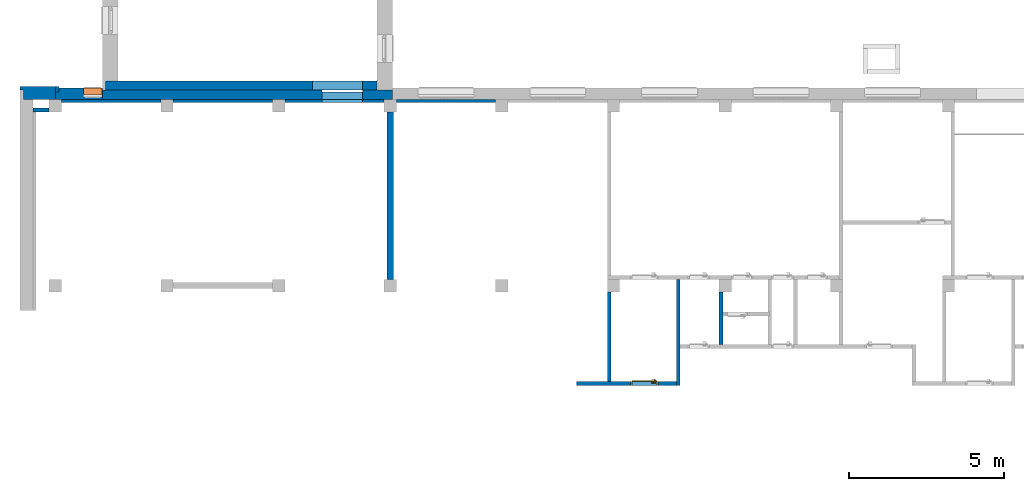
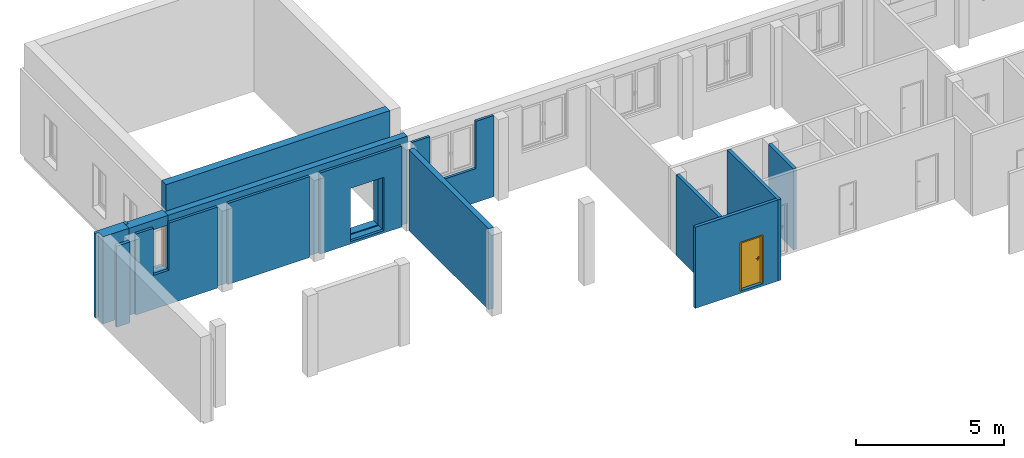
# One storey, part 2 of 37: 15 walls, 1 door, 1 proxy, 7 openings.
"""IFC4 building model written with IfcOpenShell, lengths in metres."""

from ifc_helpers import new_model, entity, si_unit, converted_unit, derived_unit, frame, frame_2d, origin, origin_with_axes, place, context, subcontext, project, spatial, polyline, rectangle, outline, extrude, clip, bounded_halfspace, closed_shell, open_shell, faceted_brep, surface_model, source, transform, mapped, material, layer, layer_set, layer_usage, type_object, element, fill, save


model = new_model("IFC4")

# Units and contexts
model_context = context("Model", 3, precision=1e-05, world=origin())
body_context = subcontext(model_context, "Body", "Model", "MODEL_VIEW")
ifc_project = project(units=[si_unit("LENGTHUNIT", "METRE"), si_unit("AREAUNIT", "SQUARE_METRE"), si_unit("VOLUMEUNIT", "CUBIC_METRE"), si_unit("MASSUNIT", "GRAM", prefix="KILO"), converted_unit("PLANEANGLEUNIT", "DEGREE", entity("IfcPlaneAngleMeasure", 0.0174532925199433), si_unit("PLANEANGLEUNIT", "RADIAN"), dimensions=[0, 0, 0, 0, 0, 0, 0]), derived_unit("THERMALTRANSMITTANCEUNIT", [(si_unit("POWERUNIT", "WATT"), 1), (si_unit("THERMODYNAMICTEMPERATUREUNIT", "KELVIN"), -1), (si_unit("LENGTHUNIT", "METRE"), -2)]), derived_unit("VOLUMETRICFLOWRATEUNIT", [(si_unit("LENGTHUNIT", "METRE"), 3), (converted_unit("TIMEUNIT", "hour", entity("IfcTimeMeasure", 3600.0), si_unit("TIMEUNIT", "SECOND"), dimensions=[0, 0, 1, 0, 0, 0, 0]), -1), (si_unit("LENGTHUNIT", "METRE"), -1)])], contexts=[model_context])

# Site, building, storey
site_placement = place(None, origin())
site = spatial("IfcSite", under=ifc_project, at=site_placement, Name="3. ASŘ", CompositionType="ELEMENT")
building_placement = place(site_placement, origin())
building = spatial("IfcBuilding", under=site, at=building_placement, Name="Pavilon B", CompositionType="ELEMENT")
storey_placement = place(building_placement, origin())
storey = spatial("IfcBuildingStorey", under=building, at=storey_placement, Name="Půdorys 1.NP", CompositionType="ELEMENT", Elevation=0.0)

# Walls
ifc_material_1 = material(Name="ZELEZOBETONOVÁ KCE")
ifc_layer_1 = layer(ifc_material_1, 0.2)
ifc_layer_set_1 = layer_set([ifc_layer_1])
ifc_layer_usage_1 = layer_usage(ifc_layer_set_1, "AXIS2", "POSITIVE", -0.1)
wall_1_placement = place(storey_placement, frame((6.70000000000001, -21.4, -0.1), z_axis=(0.0, 0.0, 1.0), x_axis=(0.0, 1.0, 0.0)))
element("IfcWall", 1, at=wall_1_placement, inside=storey, material=ifc_layer_usage_1, Name="ZELEZOBETONOVÁ KCE", context=body_context, shape_type="SweptSolid", body=[
    extrude(rectangle(XDim=5.4, YDim=0.2, at=frame_2d((2.7, 0.1), x_axis=(1.0, 0.0))), origin_with_axes(), (0.0, 0.0, 1.0), 3.35),
])
ifc_material_2 = material(Name="ZDIVO Z CDm")
ifc_layer_2 = layer(ifc_material_2, 0.125)
ifc_layer_set_2 = layer_set([ifc_layer_2])
ifc_layer_usage_2 = layer_usage(ifc_layer_set_2, "AXIS2", "POSITIVE", 0.0)
wall_2_placement = place(storey_placement, frame((-4.91999999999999, -16.0, -0.1)))
element("IfcWall", 2, at=wall_2_placement, inside=storey, material=ifc_layer_usage_2, Name="ZDIVO Z CDm", context=body_context, shape_type="SweptSolid", body=[
    extrude(rectangle(XDim=0.52, YDim=0.125, at=frame_2d((0.26, 0.0625), x_axis=(1.0, 0.0))), origin_with_axes(), (0.0, 0.0, 1.0), 3.35),
])
ifc_material_3 = material(Name="ZELEZOBETONOVÁ KCE")
ifc_layer_3 = layer(ifc_material_3, 0.3)
ifc_material_4 = material(Name="MINERÁLNÍ VATA")
ifc_layer_4 = layer(ifc_material_4, 0.12)
ifc_layer_set_3 = layer_set([ifc_layer_3, ifc_layer_4])
ifc_layer_usage_3 = layer_usage(ifc_layer_set_3, "AXIS2", "POSITIVE", 0.0)
wall_3_placement = place(storey_placement, frame((-5.21999999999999, -15.6, -0.1)))
element("IfcWall", 3, at=wall_3_placement, inside=storey, material=ifc_layer_usage_3, Name="ZELEZOBETONOVÁ KCE", context=body_context, shape_type="Clipping", body=[
    clip(extrude(outline(polyline([(0.0, 0.42), (0.0, 0.3), (0.12, 0.3), (0.12, 0.0), (1.14, 0.0), (1.14, 0.42), (0.0, 0.42)])), frame((-0.12, 0.0, 0.0), z_axis=(0.0, 0.0, 1.0), x_axis=(1.0, 0.0, 0.0)), (0.0, 0.0, 1.0), 3.6), bounded_halfspace(frame((0.36, 0.347999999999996, 0.1), z_axis=(0.0, 0.0, 1.0), x_axis=(0.0, -1.0, 0.0)), True, origin_with_axes(), polyline([(-0.12, 0.42), (-0.12, 0.3), (0.0, 0.299999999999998), (1.02, 0.299999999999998), (1.02, 0.42), (-0.12, 0.42)]))),
])
ifc_material_5 = material(Name="MINERÁLNÍ VATA")
ifc_layer_5 = layer(ifc_material_5, 0.12)
ifc_layer_set_4 = layer_set([ifc_layer_5])
ifc_layer_usage_4 = layer_usage(ifc_layer_set_4, "AXIS2", "POSITIVE", 0.0)
wall_4_placement = place(storey_placement, frame((-4.19999999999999, -15.18, 0.0), z_axis=(0.0, 0.0, 1.0), x_axis=(0.0, -1.0, 0.0)))
element("IfcWall", 4, at=wall_4_placement, inside=storey, material=ifc_layer_usage_4, Name="ZELEZOBETONOVÁ KCE", context=body_context, shape_type="SweptSolid", body=[
    extrude(rectangle(XDim=0.17, YDim=0.12, at=frame_2d((0.085, 0.06), x_axis=(1.0, 0.0))), origin_with_axes(), (0.0, 0.0, 1.0), 3.5),
])

# Wall, opening
ifc_material_6 = material(Name="PÓROBETONOVÉ ZDIVO")
ifc_layer_6 = layer(ifc_material_6, 0.1)
ifc_layer_set_5 = layer_set([ifc_layer_6])
ifc_layer_usage_5 = layer_usage(ifc_layer_set_5, "AXIS2", "POSITIVE", 0.0)
wall_5_placement = place(storey_placement, frame((6.40000000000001, -15.6, -0.1), z_axis=(0.0, 0.0, 1.0), x_axis=(-1.0, 0.0, 0.0)))
wall_5 = element("IfcWall", 5, at=wall_5_placement, inside=storey, material=ifc_layer_usage_5, Name="PÓROBETONOVÉ ZDIVO", context=body_context, shape_type="SweptSolid", body=[
    extrude(rectangle(XDim=3.2, YDim=0.1, at=frame_2d((1.6, 0.05), x_axis=(1.0, 0.0))), origin_with_axes(), (0.0, 0.0, 1.0), 3.35),
])
opening_1_placement = place(wall_5_placement, frame((2.0, 0.1, 0.1), z_axis=(0.0, -1.0, 0.0), x_axis=(0.0, 0.0, 1.0)))
element("IfcOpeningElement", 6, at=opening_1_placement, cuts=wall_5, Name="Dveřní otvor", ObjectType="Opening", context=body_context, shape_type="SweptSolid", body=[
    extrude(outline(polyline([(0.0, 1.3), (2.2, 1.3), (2.2, 0.0), (0.0, 0.0), (0.0, 1.3)])), origin_with_axes(), (0.0, 0.0, 1.0), 0.1),
])

# Wall
ifc_material_7 = material(Name="PÓROBETONOVÉ ZDIVO")
ifc_layer_7 = layer(ifc_material_7, 0.1)
ifc_layer_set_6 = layer_set([ifc_layer_7])
ifc_layer_usage_6 = layer_usage(ifc_layer_set_6, "AXIS2", "POSITIVE", 0.0)
wall_6_placement = place(storey_placement, frame((2.80000000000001, -15.6, -0.1), z_axis=(0.0, 0.0, 1.0), x_axis=(-1.0, 0.0, 0.0)))
element("IfcWall", 7, at=wall_6_placement, inside=storey, material=ifc_layer_usage_6, Name="PÓROBETONOVÉ ZDIVO", context=body_context, shape_type="SweptSolid", body=[
    extrude(rectangle(XDim=3.2, YDim=0.1, at=frame_2d((1.6, 0.05), x_axis=(1.0, 0.0))), origin_with_axes(), (0.0, 0.0, 1.0), 3.35),
])

# Wall, opening
ifc_material_8 = material(Name="PÓROBETONOVÉ ZDIVO")
ifc_layer_8 = layer(ifc_material_8, 0.1)
ifc_layer_set_7 = layer_set([ifc_layer_8])
ifc_layer_usage_7 = layer_usage(ifc_layer_set_7, "AXIS2", "POSITIVE", 0.0)
wall_7_placement = place(storey_placement, frame((10.0, -15.6, -0.1), z_axis=(0.0, 0.0, 1.0), x_axis=(-1.0, 0.0, 0.0)))
wall_7 = element("IfcWall", 8, at=wall_7_placement, inside=storey, material=ifc_layer_usage_7, Name="PÓROBETONOVÉ ZDIVO", context=body_context, shape_type="SweptSolid", body=[
    extrude(rectangle(XDim=3.2, YDim=0.1, at=frame_2d((1.6, 0.05), x_axis=(1.0, 0.0))), origin_with_axes(), (0.0, 0.0, 1.0), 3.35),
])
opening_2_placement = place(wall_7_placement, frame((2.5, 0.1, 1.4), z_axis=(0.0, -1.0, 0.0), x_axis=(0.0, 0.0, 1.0)))
element("IfcOpeningElement", 9, at=opening_2_placement, cuts=wall_7, Name="Okenní otvor", ObjectType="Opening", context=body_context, shape_type="SweptSolid", body=[
    extrude(outline(polyline([(0.0, 1.8), (1.95, 1.8), (1.95, 0.0), (0.0, 0.0), (0.0, 1.8)])), origin_with_axes(), (0.0, 0.0, 1.0), 0.1),
])

ifc_material_9 = material(Name="PÓROBETONOVÉ ZDIVO")
ifc_layer_9 = layer(ifc_material_9, 0.1)
ifc_layer_set_8 = layer_set([ifc_layer_9])
ifc_layer_usage_8 = layer_usage(ifc_layer_set_8, "AXIS2", "POSITIVE", 0.0)
wall_8_placement = place(storey_placement, frame((-0.799999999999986, -15.6, -0.1), z_axis=(0.0, 0.0, 1.0), x_axis=(-1.0, 0.0, 0.0)))
wall_8 = element("IfcWall", 10, at=wall_8_placement, inside=storey, material=ifc_layer_usage_8, Name="PÓROBETONOVÉ ZDIVO", context=body_context, shape_type="SweptSolid", body=[
    extrude(rectangle(XDim=3.2, YDim=0.1, at=frame_2d((1.6, 0.05), x_axis=(1.0, 0.0))), origin_with_axes(), (0.0, 0.0, 1.0), 3.35),
])
opening_3_placement = place(wall_8_placement, frame((2.5, 0.1, 1.4), z_axis=(0.0, -1.0, 0.0), x_axis=(0.0, 0.0, 1.0)))
element("IfcOpeningElement", 11, at=opening_3_placement, cuts=wall_8, Name="Okenní otvor", ObjectType="Opening", context=body_context, shape_type="SweptSolid", body=[
    extrude(outline(polyline([(0.0, 0.6), (1.95, 0.6), (1.95, 0.0), (0.0, 0.0), (0.0, 0.6)])), origin_with_axes(), (0.0, 0.0, 1.0), 0.1),
])

# Wall, opening, proxy
ifc_material_10 = material(Name="ZELEZOBETONOVÁ KCE")
ifc_layer_10 = layer(ifc_material_10, 0.25)
ifc_material_11 = material(Name="MINERÁLNÍ VATA")
ifc_layer_11 = layer(ifc_material_11, 0.12)
ifc_layer_set_9 = layer_set([ifc_layer_10, ifc_layer_11])
ifc_layer_usage_9 = layer_usage(ifc_layer_set_9, "AXIS2", "POSITIVE", 0.0)
wall_9_placement = place(storey_placement, frame((-4.19999999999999, -15.6, -0.1)))
wall_9 = element("IfcWall", 12, at=wall_9_placement, inside=storey, material=ifc_layer_usage_9, Name="ZELEZOBETONOVÁ KCE", context=body_context, shape_type="Clipping", body=[
    clip(extrude(outline(polyline([(0.12, 0.37), (0.12, 0.25), (0.0, 0.25), (0.0, 0.0), (1.52, 0.0), (1.52, 0.37), (0.12, 0.37)])), origin_with_axes(), (0.0, 0.0, 1.0), 3.6), bounded_halfspace(frame((0.82, 0.31, 0.1), z_axis=(0.0, 0.0, 1.0), x_axis=(0.0, -1.0, 0.0)), True, origin_with_axes(), polyline([(0.12, 0.37), (0.12, 0.25), (1.52, 0.249999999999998), (1.52, 0.37), (0.12, 0.37)]))),
])
opening_4_placement = place(wall_9_placement, frame((1.5, 0.37, 1.4), z_axis=(0.0, -1.0, 0.0), x_axis=(0.0, 0.0, 1.0)))
opening_4 = element("IfcOpeningElement", 13, at=opening_4_placement, cuts=wall_9, Name="Okenní otvor", ObjectType="Opening", context=body_context, shape_type="SweptSolid", body=[
    extrude(outline(polyline([(0.0, 0.6), (1.8, 0.6), (1.8, 0.0), (0.0, 0.0), (0.0, 0.6)])), origin_with_axes(), (0.0, 0.0, 1.0), 0.12),
    extrude(outline(polyline([(0.0, 0.6), (1.8, 0.6), (1.8, 0.0), (0.0, 0.0), (0.0, 0.6)])), frame((0.0, 0.0, 0.12), z_axis=(0.0, 0.0, 1.0), x_axis=(1.0, 0.0, 0.0)), (0.0, 0.0, 1.0), 0.25),
])
ifc_material_12 = material(Name="MINERÁLNÍ VATA")
proxy_placement = place(opening_4_placement, frame((0.0, 0.6, 0.2)))
proxy = element("IfcBuildingElementProxy", 14, at=proxy_placement, inside=storey, material=ifc_material_12, context=body_context, shape_type="Brep", body=[
    faceted_brep([(0.0, 0.0, 0.0), (0.0, 0.0, -0.2), (1.8, 0.0, -0.2), (1.8, 0.0, 0.0), (1.8, -0.6, -0.2), (1.8, -0.6, 0.0), (0.0, -0.0400000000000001, -0.2), (0.0, -0.0400000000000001, 0.0), (0.0, -0.6, 0.0), (0.0, -0.56, 0.0), (1.76, -0.56, 0.0), (1.76, -0.0400000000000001, 0.0), (1.76, -0.0400000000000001, -0.2), (1.76, -0.56, -0.2), (0.0, -0.56, -0.2), (0.0, -0.6, -0.2)], [[[0, 1, 2, 3]], [[2, 4, 5, 3]], [[6, 1, 0, 7]], [[7, 0, 3, 5, 8, 9, 10, 11]], [[1, 6, 12, 13, 14, 15, 4, 2]], [[6, 7, 11, 12]], [[15, 8, 5, 4]], [[15, 14, 9, 8]], [[9, 14, 13, 10]], [[10, 13, 12, 11]]], orient=[[False], [False], [False], [False], [False], [False], [False], [False], [False], [False]]),
])
fill(opening_4, proxy)

# Wall, opening
ifc_material_13 = material(Name="ZELEZOBETONOVÁ KCE")
ifc_layer_12 = layer(ifc_material_13, 0.250000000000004)
ifc_material_14 = material(Name="PERIMETR")
ifc_layer_13 = layer(ifc_material_14, 0.05)
ifc_layer_set_10 = layer_set([ifc_layer_12, ifc_layer_13])
ifc_layer_usage_10 = layer_usage(ifc_layer_set_10, "AXIS2", "POSITIVE", 0.0)
wall_10_placement = place(storey_placement, frame((-2.68000000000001, -15.6, -0.1), z_axis=(0.0, 0.0, 1.0), x_axis=(1.0, -1.9454432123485e-16, 0.0)))
wall_10 = element("IfcWall", 15, at=wall_10_placement, inside=storey, material=ifc_layer_usage_10, Name="ZELEZOBETONOVÁ KCE", context=body_context, shape_type="Clipping", body=[
    clip(clip(extrude(rectangle(XDim=9.35000000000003, YDim=0.300000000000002, at=frame_2d((4.67500000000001, 0.150000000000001), x_axis=(1.0, 0.0))), origin_with_axes(), (0.0, 0.0, 1.0), 3.6), bounded_halfspace(frame((4.67500000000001, 0.275000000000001, 0.1), z_axis=(0.0, 0.0, 1.0), x_axis=(1.9454432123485e-16, -1.0, 0.0)), True, origin_with_axes(), polyline([(-5.83632963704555e-17, 0.300000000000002), (-4.8636080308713e-17, 0.250000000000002), (9.35000000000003, 0.250000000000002), (9.35000000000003, 0.300000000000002), (-5.83632963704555e-17, 0.300000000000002)]))), bounded_halfspace(frame((4.67500000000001, 0.275000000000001, 3.35), z_axis=(0.0, 0.0, -1.0), x_axis=(1.0, 0.0, 0.0)), True, origin_with_axes(), polyline([(-4.8636080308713e-17, 0.250000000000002), (9.35000000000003, 0.250000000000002), (9.35000000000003, 0.300000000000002), (-5.83632963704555e-17, 0.300000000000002), (-4.8636080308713e-17, 0.250000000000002)]))),
])
opening_5_placement = place(wall_10_placement, frame((8.38000000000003, 0.250000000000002, 0.1), z_axis=(0.0, -1.0, 0.0), x_axis=(0.0, 0.0, 1.0)))
element("IfcOpeningElement", 16, at=opening_5_placement, cuts=wall_10, Name="Dveřní otvor", ObjectType="Opening", context=body_context, shape_type="SweptSolid", body=[
    extrude(outline(polyline([(0.0, 1.3), (2.2, 1.3), (2.2, 0.0), (0.0, 0.0), (0.0, 1.3)])), origin_with_axes(), (0.0, 0.0, 1.0), 0.250000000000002),
    extrude(outline(polyline([(0.0, 1.3), (2.2, 1.3), (2.2, 0.0), (0.0, 0.0), (0.0, 1.3)])), frame((0.0, 0.0, -0.05), z_axis=(0.0, 0.0, 1.0), x_axis=(1.0, 0.0, 0.0)), (0.0, 0.0, 1.0), 0.05),
])

ifc_material_15 = material(Name="STÁVAJÍC KCE")
ifc_layer_14 = layer(ifc_material_15, 0.3)
ifc_layer_set_11 = layer_set([ifc_layer_14])
ifc_layer_usage_11 = layer_usage(ifc_layer_set_11, "AXIS2", "POSITIVE", 0.0)
wall_11_placement = place(storey_placement, frame((-2.57999999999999, -15.3, -0.25)))
wall_11 = element("IfcWall", 17, at=wall_11_placement, inside=storey, material=ifc_layer_usage_11, Name="STÁVAJÍCÍ KCE", context=body_context, shape_type="SweptSolid", body=[
    extrude(rectangle(XDim=8.75, YDim=0.3, at=frame_2d((4.375, 0.15), x_axis=(1.0, 0.0))), origin_with_axes(), (0.0, 0.0, 1.0), 4.8),
])
opening_6_placement = place(wall_11_placement, frame((8.28, 0.3, 0.25), z_axis=(0.0, -1.0, 0.0), x_axis=(0.0, 0.0, 1.0)))
element("IfcOpeningElement", 18, at=opening_6_placement, cuts=wall_11, Name="Dveřní otvor", ObjectType="Opening", context=body_context, shape_type="SweptSolid", body=[
    extrude(outline(polyline([(0.0, 1.6), (2.2, 1.6), (2.2, 0.0), (0.0, 0.0), (0.0, 1.6)])), origin_with_axes(), (0.0, 0.0, 1.0), 0.3),
])

# Walls
ifc_material_16 = material(Name="ZDIVO Z CDm")
ifc_layer_15 = layer(ifc_material_16, 0.125)
ifc_layer_set_12 = layer_set([ifc_layer_15])
ifc_layer_usage_12 = layer_usage(ifc_layer_set_12, "AXIS2", "POSITIVE", 0.0)
wall_12_placement = place(storey_placement, frame((13.6, -21.8, -0.1), z_axis=(0.0, 0.0, 1.0), x_axis=(0.0, -1.0, 0.0)))
element("IfcWall", 19, at=wall_12_placement, inside=storey, material=ifc_layer_usage_12, Name="ZDIVO Z CDm", context=body_context, shape_type="SweptSolid", body=[
    extrude(rectangle(XDim=2.90000000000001, YDim=0.125, at=frame_2d((1.45, 0.0625), x_axis=(1.0, 0.0))), origin_with_axes(), (0.0, 0.0, 1.0), 3.35),
])
ifc_material_17 = material(Name="ZDIVO Z CDm")
ifc_layer_16 = layer(ifc_material_17, 0.125)
ifc_layer_set_13 = layer_set([ifc_layer_16])
ifc_layer_usage_13 = layer_usage(ifc_layer_set_13, "AXIS2", "POSITIVE", 0.0)
wall_13_placement = place(storey_placement, frame((15.825, -21.4, -0.1), z_axis=(0.0, 0.0, 1.0), x_axis=(0.0, -1.0, 0.0)))
element("IfcWall", 20, at=wall_13_placement, inside=storey, material=ifc_layer_usage_13, Name="ZDIVO Z CDm", context=body_context, shape_type="SweptSolid", body=[
    extrude(rectangle(XDim=3.425, YDim=0.125, at=frame_2d((1.7125, 0.0625), x_axis=(1.0, 0.0))), origin_with_axes(), (0.0, 0.0, 1.0), 3.35),
])

# Wall, opening, door
ifc_material_18 = material(Name="ZDIVO Z CDm")
ifc_layer_17 = layer(ifc_material_18, 0.125)
ifc_layer_set_14 = layer_set([ifc_layer_17])
ifc_layer_usage_14 = layer_usage(ifc_layer_set_14, "AXIS2", "POSITIVE", 0.0)
wall_14_placement = place(storey_placement, frame((15.825, -24.7, -0.1), z_axis=(0.0, 0.0, 1.0), x_axis=(-1.0, 0.0, 0.0)))
wall_14 = element("IfcWall", 21, at=wall_14_placement, inside=storey, material=ifc_layer_usage_14, Name="ZDIVO Z CDm", context=body_context, shape_type="SweptSolid", body=[
    extrude(rectangle(XDim=3.225, YDim=0.125, at=frame_2d((1.6125, 0.0625), x_axis=(1.0, 0.0))), origin_with_axes(), (0.0, 0.0, 1.0), 3.35),
])
opening_7_placement = place(wall_14_placement, frame((0.575000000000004, 0.0, 0.1), z_axis=(0.0, 1.0, 0.0), x_axis=(0.0, 0.0, 1.0)))
opening_7 = element("IfcOpeningElement", 22, at=opening_7_placement, cuts=wall_14, Name="Dveřní otvor", ObjectType="Opening", context=body_context, shape_type="SweptSolid", body=[
    extrude(outline(polyline([(0.0, 0.9), (2.02, 0.9), (2.02, 0.0), (0.0, 0.0), (0.0, 0.9)])), origin_with_axes(), (0.0, 0.0, 1.0), 0.125),
])
door_type = type_object("IfcDoorType", Name="D101", OperationType="NOTDEFINED", ParameterTakesPrecedence=False, PredefinedType="DOOR")
shared_shape = source(origin_with_axes(), body_context, "Body", "SurfaceModel", [
    surface_model("IfcShellBasedSurfaceModel", [(0.0, 0.125, 2.02), (0.0, 0.125, -7.65404249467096e-18), (0.05, 0.125, -7.65404249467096e-18), (0.05, 0.125, 2.02), (0.0, 0.0, 7.65404249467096e-18), (0.0, 2.41584530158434e-16, 2.02), (0.05, 2.41584530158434e-16, 2.02), (0.05, 0.0, 7.65404249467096e-18)], [closed_shell([[[0, 1, 2, 3]], [[4, 5, 6, 7]], [[1, 0, 5, 4]], [[2, 1, 4, 7]], [[3, 2, 7, 6]], [[0, 3, 6, 5]]], orient=[[False], [False], [False], [False], [False], [False]])]),
    surface_model("IfcShellBasedSurfaceModel", [(0.85, 0.125, 2.02), (0.85, 0.125, -7.65404249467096e-18), (0.9, 0.125, -7.65404249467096e-18), (0.9, 0.125, 2.02), (0.85, 0.0, 7.65404249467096e-18), (0.85, 2.41584530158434e-16, 2.02), (0.9, 2.41584530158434e-16, 2.02), (0.9, 0.0, 7.65404249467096e-18)], [closed_shell([[[0, 1, 2, 3]], [[4, 5, 6, 7]], [[1, 0, 5, 4]], [[2, 1, 4, 7]], [[3, 2, 7, 6]], [[0, 3, 6, 5]]], orient=[[False], [False], [False], [False], [False], [False]])]),
    surface_model("IfcShellBasedSurfaceModel", [(0.05, 0.125, 2.02), (0.05, 0.125, 1.97), (0.85, 0.125, 1.97), (0.85, 0.125, 2.02), (0.05, 2.41584530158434e-16, 1.97), (0.05, 2.41584530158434e-16, 2.02), (0.85, 2.41584530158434e-16, 2.02), (0.85, 2.41584530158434e-16, 1.97)], [closed_shell([[[0, 1, 2, 3]], [[4, 5, 6, 7]], [[1, 0, 5, 4]], [[2, 1, 4, 7]], [[3, 2, 7, 6]], [[0, 3, 6, 5]]], orient=[[False], [False], [False], [False], [False], [False]])]),
    surface_model("IfcShellBasedSurfaceModel", [(0.05, 0.165, 1.97), (0.05, 0.165, -1.25526296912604e-17), (0.85, 0.165, -1.25526296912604e-17), (0.85, 0.165, 1.97), (0.05, 0.125, -7.65404249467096e-18), (0.05, 0.125, 1.97), (0.85, 0.125, 1.97), (0.85, 0.125, -7.65404249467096e-18)], [closed_shell([[[0, 1, 2, 3]], [[4, 5, 6, 7]], [[1, 0, 5, 4]], [[2, 1, 4, 7]], [[3, 2, 7, 6]], [[0, 3, 6, 5]]], orient=[[False], [False], [False], [False], [False], [False]])]),
    surface_model("IfcShellBasedSurfaceModel", [(0.808815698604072, 0.125, 0.93625), (0.8125, 0.125, 0.95), (0.808815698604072, 0.125, 0.96375), (0.79875, 0.125, 0.973815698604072), (0.785, 0.125, 0.9775), (0.77125, 0.125, 0.973815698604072), (0.761184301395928, 0.125, 0.96375), (0.7575, 0.125, 0.95), (0.761184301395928, 0.125, 0.93625), (0.77125, 0.125, 0.926184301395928), (0.785, 0.125, 0.9225), (0.79875, 0.125, 0.926184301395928), (0.8125, 0.1125, 0.95), (0.808815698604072, 0.1125, 0.93625), (0.79875, 0.1125, 0.926184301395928), (0.785, 0.1125, 0.9225), (0.77125, 0.1125, 0.926184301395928), (0.761184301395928, 0.1125, 0.93625), (0.7575, 0.1125, 0.95), (0.761184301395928, 0.1125, 0.96375), (0.77125, 0.1125, 0.973815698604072), (0.785, 0.1125, 0.9775), (0.79875, 0.1125, 0.973815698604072), (0.808815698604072, 0.1125, 0.96375)], [closed_shell([[[0, 1, 2, 3, 4, 5, 6, 7, 8, 9, 10, 11]], [[12, 13, 14, 15, 16, 17, 18, 19, 20, 21, 22, 23]], [[1, 0, 13, 12]], [[2, 1, 12, 23]], [[3, 2, 23, 22]], [[4, 3, 22, 21]], [[5, 4, 21, 20]], [[6, 5, 20, 19]], [[7, 6, 19, 18]], [[8, 7, 18, 17]], [[9, 8, 17, 16]], [[10, 9, 16, 15]], [[11, 10, 15, 14]], [[0, 11, 14, 13]]], orient=[[False], [False], [False], [False], [False], [False], [False], [False], [False], [False], [False], [False], [False], [False]])]),
    surface_model("IfcShellBasedSurfaceModel", [(0.808815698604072, 0.125, 1.03625), (0.8125, 0.125, 1.05), (0.808815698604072, 0.125, 1.06375), (0.79875, 0.125, 1.07381569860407), (0.785, 0.125, 1.0775), (0.77125, 0.125, 1.07381569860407), (0.761184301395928, 0.125, 1.06375), (0.7575, 0.125, 1.05), (0.761184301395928, 0.125, 1.03625), (0.77125, 0.125, 1.02618430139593), (0.785, 0.125, 1.0225), (0.79875, 0.125, 1.02618430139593), (0.8125, 0.1125, 1.05), (0.808815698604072, 0.1125, 1.03625), (0.79875, 0.1125, 1.02618430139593), (0.785, 0.1125, 1.0225), (0.77125, 0.1125, 1.02618430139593), (0.761184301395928, 0.1125, 1.03625), (0.7575, 0.1125, 1.05), (0.761184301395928, 0.1125, 1.06375), (0.77125, 0.1125, 1.07381569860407), (0.785, 0.1125, 1.0775), (0.79875, 0.1125, 1.07381569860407), (0.808815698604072, 0.1125, 1.06375)], [closed_shell([[[0, 1, 2, 3, 4, 5, 6, 7, 8, 9, 10, 11]], [[12, 13, 14, 15, 16, 17, 18, 19, 20, 21, 22, 23]], [[1, 0, 13, 12]], [[2, 1, 12, 23]], [[3, 2, 23, 22]], [[4, 3, 22, 21]], [[5, 4, 21, 20]], [[6, 5, 20, 19]], [[7, 6, 19, 18]], [[8, 7, 18, 17]], [[9, 8, 17, 16]], [[10, 9, 16, 15]], [[11, 10, 15, 14]], [[0, 11, 14, 13]]], orient=[[False], [False], [False], [False], [False], [False], [False], [False], [False], [False], [False], [False], [False], [False]])]),
    surface_model("IfcShellBasedSurfaceModel", [(0.785, 0.125, 1.06), (0.78, 0.125, 1.05866025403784), (0.776339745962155, 0.125, 1.055), (0.775, 0.125, 1.05), (0.776339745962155, 0.125, 1.045), (0.78, 0.125, 1.04133974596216), (0.785, 0.125, 1.04), (0.79, 0.125, 1.04133974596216), (0.793660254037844, 0.125, 1.045), (0.795, 0.125, 1.05), (0.793660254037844, 0.125, 1.055), (0.79, 0.125, 1.05866025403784), (0.79, 0.0800000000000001, 1.05866025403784), (0.785, 0.0850000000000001, 1.06), (0.793660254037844, 0.0763397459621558, 1.055), (0.795, 0.0750000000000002, 1.05), (0.793660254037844, 0.0763397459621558, 1.045), (0.79, 0.0800000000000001, 1.04133974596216), (0.785, 0.0850000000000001, 1.04), (0.78, 0.0900000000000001, 1.04133974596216), (0.776339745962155, 0.0936602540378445, 1.045), (0.775, 0.0950000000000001, 1.05), (0.776339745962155, 0.0936602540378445, 1.055), (0.78, 0.0900000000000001, 1.05866025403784), (0.67, 0.0800000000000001, 1.05866025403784), (0.67, 0.0850000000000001, 1.06), (0.67, 0.0763397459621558, 1.055), (0.67, 0.0750000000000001, 1.05), (0.67, 0.0763397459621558, 1.045), (0.67, 0.0800000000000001, 1.04133974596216), (0.67, 0.0850000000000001, 1.04), (0.67, 0.0900000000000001, 1.04133974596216), (0.67, 0.0936602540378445, 1.045), (0.67, 0.0950000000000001, 1.05), (0.67, 0.0936602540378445, 1.055), (0.67, 0.0900000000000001, 1.05866025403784)], [open_shell([[[0, 1, 2, 3, 4, 5, 6, 7, 8, 9, 10, 11]], [[0, 11, 12, 13]], [[11, 10, 14, 12]], [[10, 9, 15, 14]], [[9, 8, 16, 15]], [[8, 7, 17, 16]], [[7, 6, 18, 17]], [[6, 5, 19, 18]], [[5, 4, 20, 19]], [[4, 3, 21, 20]], [[3, 2, 22, 21]], [[2, 1, 23, 22]], [[1, 0, 13, 23]], [[13, 12, 24, 25]], [[12, 14, 26, 24]], [[14, 15, 27, 26]], [[15, 16, 28, 27]], [[16, 17, 29, 28]], [[17, 18, 30, 29]], [[18, 19, 31, 30]], [[19, 20, 32, 31]], [[20, 21, 33, 32]], [[21, 22, 34, 33]], [[22, 23, 35, 34]], [[23, 13, 25, 35]]], orient=[[False], [False], [False], [False], [False], [False], [False], [False], [False], [False], [False], [False], [False], [False], [False], [False], [False], [False], [False], [False], [False], [False], [False], [False], [False]])]),
    surface_model("IfcShellBasedSurfaceModel", [(0.808815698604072, 0.165, 0.93625), (0.79875, 0.165, 0.926184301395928), (0.785, 0.165, 0.9225), (0.77125, 0.165, 0.926184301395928), (0.761184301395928, 0.165, 0.93625), (0.7575, 0.165, 0.95), (0.761184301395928, 0.165, 0.96375), (0.77125, 0.165, 0.973815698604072), (0.785, 0.165, 0.9775), (0.79875, 0.165, 0.973815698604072), (0.808815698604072, 0.165, 0.96375), (0.8125, 0.165, 0.95), (0.8125, 0.1775, 0.95), (0.808815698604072, 0.1775, 0.96375), (0.79875, 0.1775, 0.973815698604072), (0.785, 0.1775, 0.9775), (0.77125, 0.1775, 0.973815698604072), (0.761184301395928, 0.1775, 0.96375), (0.7575, 0.1775, 0.95), (0.761184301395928, 0.1775, 0.93625), (0.77125, 0.1775, 0.926184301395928), (0.785, 0.1775, 0.9225), (0.79875, 0.1775, 0.926184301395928), (0.808815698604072, 0.1775, 0.93625)], [closed_shell([[[0, 1, 2, 3, 4, 5, 6, 7, 8, 9, 10, 11]], [[12, 13, 14, 15, 16, 17, 18, 19, 20, 21, 22, 23]], [[11, 12, 23, 0]], [[10, 13, 12, 11]], [[9, 14, 13, 10]], [[8, 15, 14, 9]], [[7, 16, 15, 8]], [[6, 17, 16, 7]], [[5, 18, 17, 6]], [[4, 19, 18, 5]], [[3, 20, 19, 4]], [[2, 21, 20, 3]], [[1, 22, 21, 2]], [[0, 23, 22, 1]]], orient=[[False], [False], [False], [False], [False], [False], [False], [False], [False], [False], [False], [False], [False], [False]])]),
    surface_model("IfcShellBasedSurfaceModel", [(0.808815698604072, 0.165, 1.03625), (0.79875, 0.165, 1.02618430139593), (0.785, 0.165, 1.0225), (0.77125, 0.165, 1.02618430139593), (0.761184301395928, 0.165, 1.03625), (0.7575, 0.165, 1.05), (0.761184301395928, 0.165, 1.06375), (0.77125, 0.165, 1.07381569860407), (0.785, 0.165, 1.0775), (0.79875, 0.165, 1.07381569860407), (0.808815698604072, 0.165, 1.06375), (0.8125, 0.165, 1.05), (0.8125, 0.1775, 1.05), (0.808815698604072, 0.1775, 1.06375), (0.79875, 0.1775, 1.07381569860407), (0.785, 0.1775, 1.0775), (0.77125, 0.1775, 1.07381569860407), (0.761184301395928, 0.1775, 1.06375), (0.7575, 0.1775, 1.05), (0.761184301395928, 0.1775, 1.03625), (0.77125, 0.1775, 1.02618430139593), (0.785, 0.1775, 1.0225), (0.79875, 0.1775, 1.02618430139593), (0.808815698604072, 0.1775, 1.03625)], [closed_shell([[[0, 1, 2, 3, 4, 5, 6, 7, 8, 9, 10, 11]], [[12, 13, 14, 15, 16, 17, 18, 19, 20, 21, 22, 23]], [[11, 12, 23, 0]], [[10, 13, 12, 11]], [[9, 14, 13, 10]], [[8, 15, 14, 9]], [[7, 16, 15, 8]], [[6, 17, 16, 7]], [[5, 18, 17, 6]], [[4, 19, 18, 5]], [[3, 20, 19, 4]], [[2, 21, 20, 3]], [[1, 22, 21, 2]], [[0, 23, 22, 1]]], orient=[[False], [False], [False], [False], [False], [False], [False], [False], [False], [False], [False], [False], [False], [False]])]),
    surface_model("IfcShellBasedSurfaceModel", [(0.785, 0.165, 1.06), (0.79, 0.165, 1.05866025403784), (0.793660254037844, 0.165, 1.055), (0.795, 0.165, 1.05), (0.793660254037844, 0.165, 1.045), (0.79, 0.165, 1.04133974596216), (0.785, 0.165, 1.04), (0.78, 0.165, 1.04133974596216), (0.776339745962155, 0.165, 1.045), (0.775, 0.165, 1.05), (0.776339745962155, 0.165, 1.055), (0.78, 0.165, 1.05866025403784), (0.785, 0.205, 1.06), (0.79, 0.21, 1.05866025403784), (0.793660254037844, 0.213660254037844, 1.055), (0.795, 0.215, 1.05), (0.793660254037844, 0.213660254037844, 1.045), (0.79, 0.21, 1.04133974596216), (0.785, 0.205, 1.04), (0.78, 0.2, 1.04133974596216), (0.776339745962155, 0.196339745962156, 1.045), (0.775, 0.195, 1.05), (0.776339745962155, 0.196339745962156, 1.055), (0.78, 0.2, 1.05866025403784), (0.67, 0.205, 1.06), (0.67, 0.21, 1.05866025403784), (0.67, 0.213660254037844, 1.055), (0.67, 0.215, 1.05), (0.67, 0.213660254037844, 1.045), (0.67, 0.21, 1.04133974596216), (0.67, 0.205, 1.04), (0.67, 0.2, 1.04133974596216), (0.67, 0.196339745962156, 1.045), (0.67, 0.195, 1.05), (0.67, 0.196339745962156, 1.055), (0.67, 0.2, 1.05866025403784)], [open_shell([[[0, 1, 2, 3, 4, 5, 6, 7, 8, 9, 10, 11]], [[0, 12, 13, 1]], [[1, 13, 14, 2]], [[2, 14, 15, 3]], [[3, 15, 16, 4]], [[4, 16, 17, 5]], [[5, 17, 18, 6]], [[6, 18, 19, 7]], [[7, 19, 20, 8]], [[8, 20, 21, 9]], [[9, 21, 22, 10]], [[10, 22, 23, 11]], [[11, 23, 12, 0]], [[12, 24, 25, 13]], [[13, 25, 26, 14]], [[14, 26, 27, 15]], [[15, 27, 28, 16]], [[16, 28, 29, 17]], [[17, 29, 30, 18]], [[18, 30, 31, 19]], [[19, 31, 32, 20]], [[20, 32, 33, 21]], [[21, 33, 34, 22]], [[22, 34, 35, 23]], [[23, 35, 24, 12]]], orient=[[False], [False], [False], [False], [False], [False], [False], [False], [False], [False], [False], [False], [False], [False], [False], [False], [False], [False], [False], [False], [False], [False], [False], [False], [False]])]),
])
door_placement = place(opening_7_placement, frame((0.0, 0.9, 0.125), z_axis=(1.0, 0.0, 0.0), x_axis=(0.0, -1.0, 2.44929359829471e-16)))
door = element("IfcDoor", 23, at=door_placement, inside=storey, type_object=door_type, Name="D101", OverallHeight=2.02, OverallWidth=0.9, context=body_context, shape_type="MappedRepresentation", body=[
    mapped(shared_shape, transform((0.0, 0.0, 0.0), x_axis=(1.0, 0.0, 0.0), y_axis=(0.0, 1.0, 0.0), z_axis=(0.0, 0.0, 1.0), scale=1.0)),
])
fill(opening_7, door)

# Wall
ifc_material_19 = material(Name="ZDIVO Z CDm")
ifc_layer_18 = layer(ifc_material_19, 0.125)
ifc_layer_set_15 = layer_set([ifc_layer_18])
ifc_layer_usage_15 = layer_usage(ifc_layer_set_15, "AXIS2", "POSITIVE", 0.0)
wall_15_placement = place(storey_placement, frame((17.2, -21.8, -0.1), z_axis=(0.0, 0.0, 1.0), x_axis=(0.0, -1.0, 0.0)))
element("IfcWall", 24, at=wall_15_placement, inside=storey, material=ifc_layer_usage_15, Name="ZDIVO Z CDm", context=body_context, shape_type="SweptSolid", body=[
    extrude(rectangle(XDim=1.7, YDim=0.125, at=frame_2d((0.85, 0.0625), x_axis=(1.0, 0.0))), origin_with_axes(), (0.0, 0.0, 1.0), 3.35),
])

save(model, "model.ifc")
